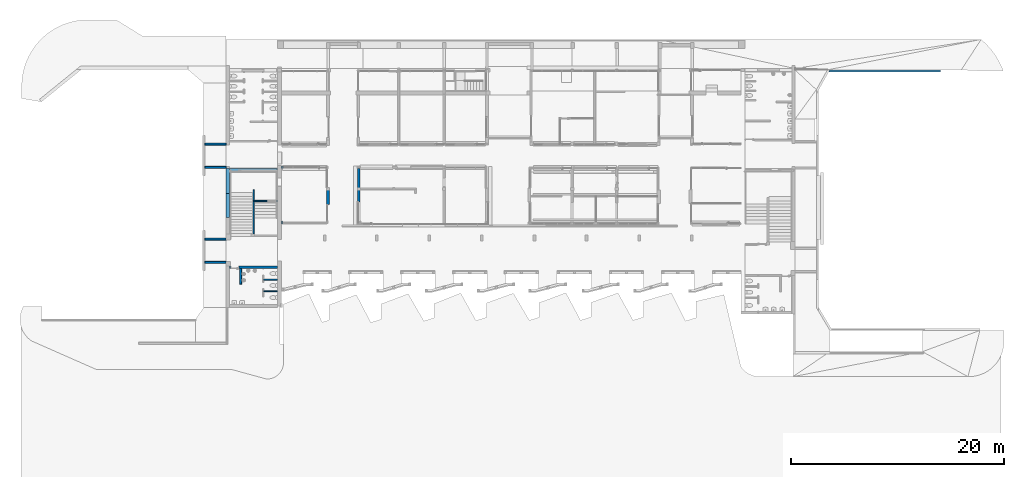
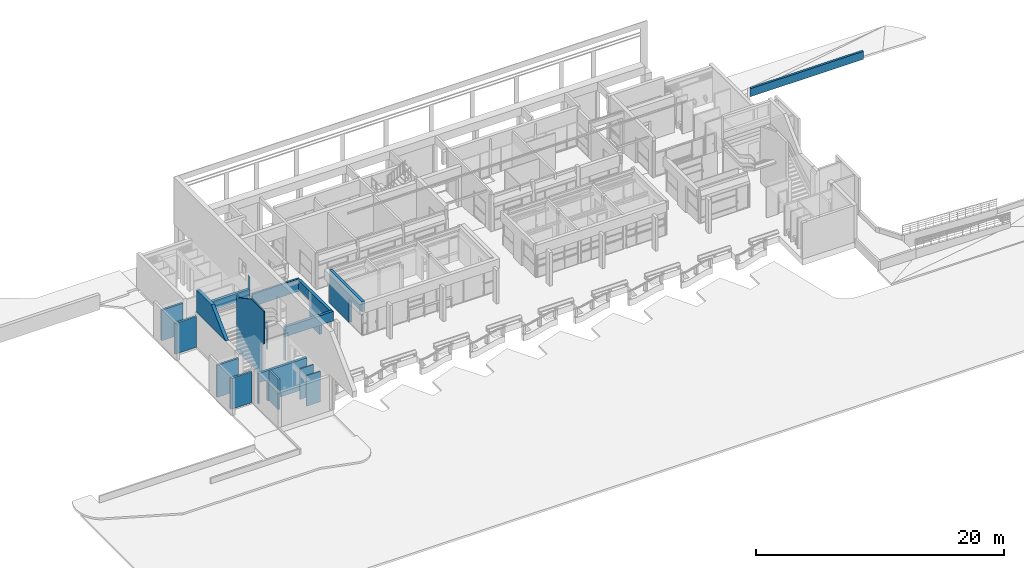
# One storey, part 71 of 117: 17 walls, 7 openings.
"""IFC4 building model written with IfcOpenShell, lengths in metres."""

from ifc_helpers import new_model, entity, si_unit, converted_unit, derived_unit, direction, frame, origin, place, context, subcontext, project, spatial, indexed_curve, outline, extrude, polygons, material, type_object, element, save


model = new_model("IFC4")

# Units and contexts
model_context = context("Model", 3, precision=1e-05, world=origin(), true_north=direction((6.123031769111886e-17, 1.0)))
body_context = subcontext(model_context, "Body", "Model", "MODEL_VIEW")
ifc_project = project(units=[si_unit("LENGTHUNIT", "METRE"), si_unit("AREAUNIT", "SQUARE_METRE"), si_unit("VOLUMEUNIT", "CUBIC_METRE"), converted_unit("PLANEANGLEUNIT", "DEGREE", entity("IfcRatioMeasure", 0.017453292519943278), si_unit("PLANEANGLEUNIT", "RADIAN"), dimensions=[0, 0, 0, 0, 0, 0, 0]), si_unit("MASSUNIT", "GRAM", prefix="KILO"), derived_unit("MASSDENSITYUNIT", [(si_unit("MASSUNIT", "GRAM", prefix="KILO"), 1), (si_unit("LENGTHUNIT", "METRE"), -3)]), derived_unit("MOMENTOFINERTIAUNIT", [(si_unit("LENGTHUNIT", "METRE"), 4)]), si_unit("TIMEUNIT", "SECOND"), si_unit("FREQUENCYUNIT", "HERTZ"), si_unit("THERMODYNAMICTEMPERATUREUNIT", "DEGREE_CELSIUS"), derived_unit("THERMALTRANSMITTANCEUNIT", [(si_unit("MASSUNIT", "GRAM", prefix="KILO"), 1), (si_unit("THERMODYNAMICTEMPERATUREUNIT", "KELVIN"), -1), (si_unit("TIMEUNIT", "SECOND"), -3)]), derived_unit("VOLUMETRICFLOWRATEUNIT", [(si_unit("LENGTHUNIT", "METRE"), 3), (si_unit("TIMEUNIT", "SECOND"), -1)]), derived_unit("MASSFLOWRATEUNIT", [(si_unit("MASSUNIT", "GRAM", prefix="KILO"), 1), (si_unit("TIMEUNIT", "SECOND"), -1)]), derived_unit("ROTATIONALFREQUENCYUNIT", [(si_unit("TIMEUNIT", "SECOND"), -1)]), si_unit("ELECTRICCURRENTUNIT", "AMPERE"), si_unit("ELECTRICVOLTAGEUNIT", "VOLT"), si_unit("POWERUNIT", "WATT"), si_unit("FORCEUNIT", "NEWTON", prefix="KILO"), si_unit("ILLUMINANCEUNIT", "LUX"), si_unit("LUMINOUSFLUXUNIT", "LUMEN"), si_unit("LUMINOUSINTENSITYUNIT", "CANDELA"), derived_unit("USERDEFINED", [(si_unit("MASSUNIT", "GRAM", prefix="KILO"), -1), (si_unit("LENGTHUNIT", "METRE"), -2), (si_unit("TIMEUNIT", "SECOND"), 3), (si_unit("LUMINOUSFLUXUNIT", "LUMEN"), 1)]), derived_unit("SOUNDPOWERUNIT", [(si_unit("MASSUNIT", "GRAM", prefix="KILO"), 1), (si_unit("LENGTHUNIT", "METRE"), 2), (si_unit("TIMEUNIT", "SECOND"), -3)]), derived_unit("SOUNDPRESSUREUNIT", [(si_unit("MASSUNIT", "GRAM", prefix="KILO"), 1), (si_unit("LENGTHUNIT", "METRE"), -1), (si_unit("TIMEUNIT", "SECOND"), -2)]), derived_unit("LINEARVELOCITYUNIT", [(si_unit("LENGTHUNIT", "METRE"), 1), (si_unit("TIMEUNIT", "SECOND"), -1)]), si_unit("PRESSUREUNIT", "PASCAL"), derived_unit("USERDEFINED", [(si_unit("LENGTHUNIT", "METRE"), -2), (si_unit("MASSUNIT", "GRAM", prefix="KILO"), 1), (si_unit("TIMEUNIT", "SECOND"), -2)]), derived_unit("LINEARFORCEUNIT", [(si_unit("MASSUNIT", "GRAM", prefix="KILO"), 1), (si_unit("LENGTHUNIT", "METRE"), 1), (si_unit("TIMEUNIT", "SECOND"), -2), (si_unit("LENGTHUNIT", "METRE"), -1)]), derived_unit("PLANARFORCEUNIT", [(si_unit("MASSUNIT", "GRAM", prefix="KILO"), 1), (si_unit("LENGTHUNIT", "METRE"), 1), (si_unit("TIMEUNIT", "SECOND"), -2), (si_unit("LENGTHUNIT", "METRE"), -2)])], contexts=[model_context])

# Site, building, storey
site_placement = place(None, origin())
site = spatial("IfcSite", under=ifc_project, at=site_placement, Name="Superficie", CompositionType="ELEMENT")
building_placement = place(site_placement, origin())
building = spatial("IfcBuilding", under=site, at=building_placement, CompositionType="ELEMENT")
storey_placement = place(building_placement, origin())
storey = spatial("IfcBuildingStorey", under=building, at=storey_placement, Name="Nivel 0", CompositionType="ELEMENT", Elevation=0.0)

# Wall
ifc_material = material(Name="Muro por defecto", Category="Varios")
wall_type_1 = type_object("IfcWallType", Name="Muro básico:Por defecto - 20 cm", PredefinedType="STANDARD")
wall_1_placement = place(storey_placement, frame((28.82958928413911, 12.636664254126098, -0.7205246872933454)))
element("IfcWall", 1, at=wall_1_placement, inside=storey, type_object=wall_type_1, material=ifc_material, Name="Muro básico:Por defecto - 20 cm", ObjectType="Muro básico:Por defecto - 20 cm", PredefinedType="NOTDEFINED", context=body_context, shape_type="SweptSolid", body=[
    extrude(outline(indexed_curve([(10.557209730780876, -0.10000000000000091), (10.557209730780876, 0.09999999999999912), (0.11086181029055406, 0.0999999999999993), (3.2996074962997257e-16, -0.10000000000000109), (10.557209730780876, -0.10000000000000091)], self_intersect=False)), origin(), (0.0, 0.0, 1.0), 0.7852033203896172),
])

# Wall, opening
wall_type_2 = type_object("IfcWallType", Name="Muro básico:Por defecto - 25 cm 2", PredefinedType="STANDARD")
wall_2_placement = place(storey_placement, frame((-15.373200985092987, -1.764170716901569, 0.0), z_axis=(0.0, 0.0, 1.0), x_axis=(0.0, 1.0, 0.0)))
wall_2 = element("IfcWall", 2, at=wall_2_placement, inside=storey, type_object=wall_type_2, material=ifc_material, Name="Muro básico:Por defecto - 25 cm 2", ObjectType="Muro básico:Por defecto - 25 cm 2", PredefinedType="NOTDEFINED", context=body_context, shape_type="Tessellation", body=[
    polygons([(5.24, -0.1250000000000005, 0.0), (5.24, -0.1250000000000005, 3.3), (5.414335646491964e-16, -0.12500000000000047, 3.3), (5.414335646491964e-16, -0.12500000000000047, 2.3), (2.090000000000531, -0.12500000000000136, 2.3), (2.090000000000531, -0.12500000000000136, 0.0), (5.24, 0.12499999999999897, 3.3), (5.24, 0.12499999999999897, 0.0), (2.090000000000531, 0.12499999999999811, 0.0), (2.090000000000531, 0.12499999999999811, 2.3), (5.414335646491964e-16, 0.124999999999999, 2.3), (5.414335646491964e-16, 0.124999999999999, 3.3)], [[[1, 2, 3, 4, 5, 6]], [[7, 8, 9, 10, 11, 12]], [[8, 1, 6, 9]], [[2, 1, 8, 7]], [[3, 2, 7, 12]], [[3, 12, 11, 4]], [[10, 5, 4, 11]], [[5, 10, 9, 6]]], closed=True),
])
opening_1_placement = place(wall_2_placement, origin())
element("IfcOpeningElement", 3, at=opening_1_placement, cuts=wall_2, Name="Muro básico:Por defecto - 25 cm 2", PredefinedType="OPENING", context=body_context, shape_type="SweptSolid", body=[
    extrude(outline(indexed_curve([(-1.2192310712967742, -1.12424335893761), (1.2192310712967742, -1.12424335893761), (1.2192310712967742, 1.12424335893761), (-1.2192310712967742, 1.12424335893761), (-1.2192310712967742, -1.12424335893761)], self_intersect=False)), frame((0.9657566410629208, -0.12500000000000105, 1.0807689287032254), z_axis=(0.0, 1.0, 0.0), x_axis=(0.0, 0.0, -1.0)), (0.0, 0.0, 1.0), 0.24999999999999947),
])

# Wall, openings
wall_3_placement = place(storey_placement, frame((-18.26820098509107, -1.4791707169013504, 0.0), z_axis=(0.0, 0.0, 1.0), x_axis=(0.0, 1.0, 0.0)))
wall_3 = element("IfcWall", 4, at=wall_3_placement, inside=storey, type_object=wall_type_2, material=ifc_material, Name="Muro básico:Por defecto - 25 cm 2", ObjectType="Muro básico:Por defecto - 25 cm 2", PredefinedType="NOTDEFINED", context=body_context, shape_type="Tessellation", body=[
    polygons([(4.954999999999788, -0.12499999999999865, 3.3), (0.0, -0.12499999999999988, 3.3), (0.0, -0.12499999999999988, 2.35), (1.556282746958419, -0.12499999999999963, 2.35), (1.556282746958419, -0.12499999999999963, 0.0), (3.1520164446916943, -0.12500000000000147, 0.0), (3.1520164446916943, -0.12500000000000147, 2.35), (4.954999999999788, -0.12499999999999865, 2.35), (0.0, 0.12500000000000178, 3.3), (4.954999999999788, 0.12500000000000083, 3.3), (4.954999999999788, 0.12500000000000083, 2.35), (3.1520164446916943, 0.12500000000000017, 2.35), (3.1520164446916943, 0.12500000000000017, 0.0), (1.556282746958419, 0.12499999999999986, 0.0), (1.556282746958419, 0.12499999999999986, 2.35), (2.707167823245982e-16, 0.12500000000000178, 2.35)], [[[1, 2, 3, 4, 5, 6, 7, 8]], [[9, 10, 11, 12, 13, 14, 15, 16]], [[13, 6, 5, 14]], [[10, 1, 8, 11]], [[2, 1, 10, 9]], [[7, 12, 11, 8]], [[12, 7, 6, 13]], [[15, 4, 3, 16]], [[4, 15, 14, 5]], [[2, 9, 16, 3]]], closed=True),
])
opening_2_placement = place(wall_3_placement, origin())
element("IfcOpeningElement", 5, at=opening_2_placement, cuts=wall_3, Name="Muro básico:Por defecto - 25 cm 2", PredefinedType="OPENING", context=body_context, shape_type="SweptSolid", body=[
    extrude(outline(indexed_curve([(-1.4698824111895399, -0.9900000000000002), (1.4698824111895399, -0.9900000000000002), (1.4698824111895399, 0.9900000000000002), (-1.4698824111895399, 0.9900000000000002), (-1.4698824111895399, -0.9900000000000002)], self_intersect=False)), frame((4.142016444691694, -0.12499999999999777, 0.88011758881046), z_axis=(0.0, 1.0, 0.0), x_axis=(0.0, 0.0, -1.0)), (0.0, 0.0, 1.0), 0.2499999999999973),
])
opening_3_placement = place(wall_3_placement, origin())
element("IfcOpeningElement", 6, at=opening_3_placement, cuts=wall_3, Name="Muro básico:Por defecto - 25 cm 2", PredefinedType="OPENING", context=body_context, shape_type="SweptSolid", body=[
    extrude(outline(indexed_curve([(-1.2052856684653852, -0.845641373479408), (1.2052856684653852, -0.845641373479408), (1.2052856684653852, 0.845641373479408), (-1.2052856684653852, 0.845641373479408), (-1.2052856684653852, -0.845641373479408)], self_intersect=False)), frame((0.7106413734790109, -0.12499999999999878, 1.1447143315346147), z_axis=(0.0, 1.0, 0.0), x_axis=(0.0, 0.0, -1.0)), (0.0, 0.0, 1.0), 0.24999999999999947),
])

# Wall, opening
wall_4_placement = place(storey_placement, frame((-22.643200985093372, -1.6041707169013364, 0.0)))
wall_4 = element("IfcWall", 7, at=wall_4_placement, inside=storey, type_object=wall_type_2, material=ifc_material, Name="Muro básico:Por defecto - 25 cm 2", ObjectType="Muro básico:Por defecto - 25 cm 2", PredefinedType="NOTDEFINED", context=body_context, shape_type="Tessellation", body=[
    polygons([(4.500000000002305, -0.12500000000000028, 3.3), (1.2347090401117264e-15, -0.125, 3.3), (1.2347090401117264e-15, -0.125, 0.0), (0.11056514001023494, -0.12499999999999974, 0.0), (0.11056514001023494, -0.12499999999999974, 2.35), (4.500000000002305, -0.12500000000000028, 2.35), (4.299623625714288e-16, 0.125, 3.3), (4.250000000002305, 0.125, 3.3), (4.500000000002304, 0.125, 3.3), (4.500000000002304, 0.125, 2.35), (4.250000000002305, 0.125, 2.35), (0.11056514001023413, 0.125, 2.35), (0.11056514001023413, 0.125, 0.0), (4.299623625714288e-16, 0.125, 0.0)], [[[1, 2, 3, 4, 5, 6]], [[7, 8, 9, 10, 11, 12, 13, 14]], [[3, 14, 13, 4]], [[2, 1, 9, 8, 7]], [[5, 12, 11, 10, 6]], [[12, 5, 4, 13]], [[9, 1, 6, 10]], [[3, 2, 7, 14]]], closed=True),
])
opening_4_placement = place(wall_4_placement, origin())
element("IfcOpeningElement", 8, at=opening_4_placement, cuts=wall_4, Name="Muro básico:Por defecto - 25 cm 2", PredefinedType="OPENING", context=body_context, shape_type="SweptSolid", body=[
    extrude(outline(indexed_curve([(-1.2116068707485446, -2.257217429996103), (1.2116068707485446, -2.257217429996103), (1.2116068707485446, 2.257217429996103), (-1.2116068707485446, 2.257217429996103), (-1.2116068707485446, -2.257217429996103)], self_intersect=False)), frame((2.367782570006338, -0.12500000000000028, 1.1383931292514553), z_axis=(0.0, 1.0, 0.0), x_axis=(0.0, 0.0, -1.0)), (0.0, 0.0, 1.0), 0.25),
])

# Walls
wall_5_placement = place(storey_placement, frame((-27.543200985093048, 3.370829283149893, 3.3033896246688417)))
element("IfcWall", 9, at=wall_5_placement, inside=storey, type_object=wall_type_2, material=ifc_material, Name="Muro básico:Por defecto - 25 cm 2", ObjectType="Muro básico:Por defecto - 25 cm 2", PredefinedType="NOTDEFINED", context=body_context, shape_type="Tessellation", body=[
    polygons([(-1.8597708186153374e-15, -0.12500000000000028, 0.0), (4.499999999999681, -0.12500000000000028, 0.0), (4.499999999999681, -0.12500000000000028, 2.126610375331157), (4.491537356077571, -0.12499999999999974, 2.126610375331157), (4.491537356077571, -0.1249999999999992, 0.8566103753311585), (0.010000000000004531, -0.12500000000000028, 0.8566103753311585), (0.010000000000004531, -0.12500000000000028, 2.126610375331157), (-1.8597708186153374e-15, -0.12500000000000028, 2.126610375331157), (4.49999999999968, 0.12500000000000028, 0.0), (-2.6702499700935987e-15, 0.12499999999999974, 0.0), (1.6612185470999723e-15, 0.12499999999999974, 0.09661037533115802), (-2.6702499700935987e-15, 0.12499999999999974, 2.126610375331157), (0.010000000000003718, 0.12499999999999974, 2.126610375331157), (0.010000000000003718, 0.12499999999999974, 0.8566103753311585), (4.491537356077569, 0.12500000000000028, 0.8566103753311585), (4.491537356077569, 0.12500000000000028, 2.126610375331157), (4.49999999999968, 0.12500000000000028, 2.126610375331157)], [[[1, 2, 3, 4, 5, 6, 7, 8]], [[9, 10, 11, 12, 13, 14, 15, 16, 17]], [[2, 1, 10, 9]], [[10, 1, 8, 12, 11]], [[2, 9, 17, 3]], [[5, 15, 14, 6]], [[6, 14, 13, 7]], [[15, 5, 4, 16]], [[8, 7, 13, 12]], [[4, 3, 17, 16]]], closed=True),
])
wall_type_3 = type_object("IfcWallType", Name="Muro básico:Por defecto - 30 cm", PredefinedType="STANDARD")
wall_6_placement = place(storey_placement, frame((-27.693200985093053, -1.1515752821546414, 3.399999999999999), z_axis=(0.0, 0.0, 1.0), x_axis=(0.0, 1.0, 0.0)))
element("IfcWall", 10, at=wall_6_placement, inside=storey, type_object=wall_type_3, material=ifc_material, Name="Muro básico:Por defecto - 30 cm", ObjectType="Muro básico:Por defecto - 30 cm", PredefinedType="NOTDEFINED", context=body_context, shape_type="Tessellation", body=[
    polygons([(4.647404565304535, -0.14999999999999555, 5.414335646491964e-16), (4.647404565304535, -0.14999999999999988, 2.03), (4.647404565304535, -0.14999999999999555, 2.199999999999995), (2.2774045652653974, -0.14999999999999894, 2.199999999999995), (2.707167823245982e-16, -0.1500000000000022, 5.414335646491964e-16), (4.6474045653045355, 0.15000000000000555, 2.199999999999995), (4.6474045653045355, 0.15000000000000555, 5.414335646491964e-16), (-1.353583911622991e-16, 0.1499999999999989, 5.414335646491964e-16), (2.2774045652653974, 0.15000000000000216, 2.199999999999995)], [[[1, 2, 3, 4, 5]], [[6, 7, 8, 9]], [[1, 5, 8, 7]], [[4, 3, 6, 9]], [[5, 4, 9, 8]], [[1, 7, 6, 3, 2]]], closed=True),
])

# Wall, opening
wall_type_4 = type_object("IfcWallType", Name="Muro básico:Por defecto - 18 cm 2", PredefinedType="STANDARD")
wall_7_placement = place(storey_placement, frame((-22.643200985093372, 3.5708292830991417, 0.0)))
wall_7 = element("IfcWall", 11, at=wall_7_placement, inside=storey, type_object=wall_type_4, material=ifc_material, Name="Muro básico:Por defecto - 18 cm 2", ObjectType="Muro básico:Por defecto - 18 cm 2", PredefinedType="NOTDEFINED", context=body_context, shape_type="Tessellation", body=[
    polygons([(4.3600000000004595, -0.09000000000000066, 3.4), (1.7557397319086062e-15, -0.09000000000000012, 3.4), (1.7557397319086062e-15, -0.09000000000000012, 0.0), (0.14470812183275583, -0.09000000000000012, 0.0), (0.14470812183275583, -0.09000000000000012, 2.1757802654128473), (4.3600000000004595, -0.09000000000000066, 2.1757802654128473), (1.1745679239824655e-15, 0.09000000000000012, 3.4), (4.360000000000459, 0.09000000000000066, 3.4), (4.360000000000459, 0.09000000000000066, 2.1757802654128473), (0.14470812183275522, 0.09000000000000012, 2.1757802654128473), (0.14470812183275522, 0.09000000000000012, 0.0), (1.1745679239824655e-15, 0.09000000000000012, 0.0)], [[[1, 2, 3, 4, 5, 6]], [[7, 8, 9, 10, 11, 12]], [[3, 12, 11, 4]], [[8, 1, 6, 9]], [[2, 1, 8, 7]], [[3, 2, 7, 12]], [[5, 10, 9, 6]], [[10, 5, 4, 11]]], closed=True),
])
opening_5_placement = place(wall_7_placement, origin())
element("IfcOpeningElement", 12, at=opening_5_placement, cuts=wall_7, Name="Muro básico:Por defecto - 18 cm 2", PredefinedType="OPENING", context=body_context, shape_type="SweptSolid", body=[
    extrude(outline(indexed_curve([(-1.1407060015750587, -2.107645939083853), (1.1407060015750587, -2.107645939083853), (1.1407060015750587, 2.107645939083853), (-1.1407060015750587, 2.107645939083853), (-1.1407060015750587, -2.107645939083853)], self_intersect=False)), frame((2.2523540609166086, -0.09000000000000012, 1.0350742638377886), z_axis=(0.0, 1.0, 0.0), x_axis=(0.0, 0.0, -1.0)), (0.0, 0.0, 1.0), 0.18000000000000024),
])

# Walls
wall_8_placement = place(storey_placement, frame((-26.483200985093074, -5.944170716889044, 0.0), z_axis=(0.0, 0.0, 1.0), x_axis=(0.0, -1.0, 0.0)))
element("IfcWall", 13, at=wall_8_placement, inside=storey, type_object=wall_type_4, material=ifc_material, Name="Muro básico:Por defecto - 18 cm 2", ObjectType="Muro básico:Por defecto - 18 cm 2", PredefinedType="NOTDEFINED", context=body_context, shape_type="Tessellation", body=[
    polygons([(0.0, -0.08999999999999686, 0.0), (1.4699999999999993, -0.08999999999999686, 0.0), (1.4699999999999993, -0.08999999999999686, 2.9999999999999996), (0.0, -0.08999999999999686, 2.9999999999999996), (0.0, 0.0900000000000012, 0.0), (0.0, 0.0900000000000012, 2.9999999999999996), (1.4699999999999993, 0.0900000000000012, 2.9999999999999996), (1.4699999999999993, 0.0900000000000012, 0.0)], [[[1, 2, 3, 4]], [[5, 6, 7, 8]], [[2, 1, 5, 8]], [[3, 2, 8, 7]], [[1, 4, 6, 5]], [[4, 3, 7, 6]]], closed=True),
])
wall_9_placement = place(storey_placement, frame((-29.843200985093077, 5.760829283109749, 0.0)))
element("IfcWall", 14, at=wall_9_placement, inside=storey, type_object=wall_type_4, material=ifc_material, Name="Muro básico:Por defecto - 18 cm 2", ObjectType="Muro básico:Por defecto - 18 cm 2", PredefinedType="NOTDEFINED", context=body_context, shape_type="Tessellation", body=[
    polygons([(-1.096389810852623e-15, -0.09000000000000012, 0.0), (2.0000000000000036, -0.09000000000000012, 0.0), (2.0000000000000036, -0.09000000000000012, 2.9999999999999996), (-1.096389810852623e-15, -0.09000000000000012, 2.9999999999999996), (-1.6811380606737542e-15, 0.09000000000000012, 0.0), (-1.6811380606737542e-15, 0.09000000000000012, 2.9999999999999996), (2.0000000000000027, 0.09000000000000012, 2.9999999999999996), (2.0000000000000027, 0.09000000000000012, 0.0)], [[[1, 2, 3, 4]], [[5, 6, 7, 8]], [[2, 1, 5, 8]], [[1, 4, 6, 5]], [[3, 2, 8, 7]], [[4, 3, 7, 6]]], closed=True),
])
wall_10_placement = place(storey_placement, frame((-29.843200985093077, 3.585829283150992, 0.0)))
element("IfcWall", 15, at=wall_10_placement, inside=storey, type_object=wall_type_4, material=ifc_material, Name="Muro básico:Por defecto - 18 cm 2", ObjectType="Muro básico:Por defecto - 18 cm 2", PredefinedType="NOTDEFINED", context=body_context, shape_type="Tessellation", body=[
    polygons([(1.6171637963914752e-15, -0.09000000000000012, 0.0), (2.0000000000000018, -0.09000000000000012, 0.0), (2.0000000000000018, -0.09000000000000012, 2.9999999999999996), (1.6171637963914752e-15, -0.09000000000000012, 2.9999999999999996), (1.0313504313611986e-15, 0.09000000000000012, 0.0), (1.0313504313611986e-15, 0.09000000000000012, 2.9999999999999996), (2.0000000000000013, 0.09000000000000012, 2.9999999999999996), (2.0000000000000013, 0.09000000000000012, 0.0)], [[[1, 2, 3, 4]], [[5, 6, 7, 8]], [[2, 1, 5, 8]], [[3, 2, 8, 7]], [[1, 4, 6, 5]], [[4, 3, 7, 6]]], closed=True),
])
wall_11_placement = place(storey_placement, frame((-29.843200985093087, -3.1796675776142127, -0.1447174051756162)))
element("IfcWall", 16, at=wall_11_placement, inside=storey, type_object=wall_type_4, material=ifc_material, Name="Muro básico:Por defecto - 18 cm 2", ObjectType="Muro básico:Por defecto - 18 cm 2", PredefinedType="NOTDEFINED", context=body_context, shape_type="Tessellation", body=[
    polygons([(1.9589095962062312e-15, -0.09000000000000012, 0.0006808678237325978), (2.0000000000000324, -0.09000000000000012, 0.0006808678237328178), (2.0000000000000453, -0.09000000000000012, 0.14471740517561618), (2.0000000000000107, -0.09000000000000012, 3.1447174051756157), (1.9589095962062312e-15, -0.09000000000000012, 3.1447174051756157), (1.3741613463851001e-15, 0.09000000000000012, 3.553157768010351e-16), (1.3741613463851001e-15, 0.09000000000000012, 3.1447174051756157), (2.00000000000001, 0.09000000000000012, 3.1447174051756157), (2.00000000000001, 0.09000000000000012, 0.0)], [[[1, 2, 3, 4, 5]], [[6, 7, 8, 9]], [[1, 5, 7, 6]], [[4, 3, 2, 9, 8]], [[5, 4, 8, 7]], [[2, 1, 6, 9]]], closed=True),
])
wall_12_placement = place(storey_placement, frame((-29.843200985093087, -5.354667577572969, -0.018156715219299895)))
element("IfcWall", 17, at=wall_12_placement, inside=storey, type_object=wall_type_4, material=ifc_material, Name="Muro básico:Por defecto - 18 cm 2", ObjectType="Muro básico:Por defecto - 18 cm 2", PredefinedType="NOTDEFINED", context=body_context, shape_type="Tessellation", body=[
    polygons([(3.93898348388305e-16, -0.09000000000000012, 0.0), (2.0000000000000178, -0.0900000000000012, 0.0), (2.0000000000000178, -0.0900000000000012, 3.0181567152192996), (3.93898348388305e-16, -0.09000000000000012, 3.0181567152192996), (-1.9191501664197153e-16, 0.09000000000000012, 0.0), (-1.9191501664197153e-16, 0.09000000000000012, 3.0181567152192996), (2.0000000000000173, 0.08999999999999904, 3.0181567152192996), (2.0000000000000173, 0.08999999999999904, 0.018156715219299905), (2.0000000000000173, 0.09000000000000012, 0.0)], [[[1, 2, 3, 4]], [[5, 6, 7, 8, 9]], [[2, 1, 5, 9]], [[1, 4, 6, 5]], [[3, 2, 9, 8, 7]], [[4, 3, 7, 6]]], closed=True),
])
wall_type_5 = type_object("IfcWallType", Name="Muro básico:Por defecto - 10 cm", PredefinedType="STANDARD")
wall_13_placement = place(storey_placement, frame((-24.32320098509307, -6.99417071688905, 0.0)))
element("IfcWall", 18, at=wall_13_placement, inside=storey, type_object=wall_type_5, material=ifc_material, Name="Muro básico:Por defecto - 10 cm", ObjectType="Muro básico:Por defecto - 10 cm", PredefinedType="NOTDEFINED", context=body_context, shape_type="Tessellation", body=[
    polygons([(2.1798477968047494e-15, -0.050000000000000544, 0.0), (1.2799999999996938, -0.050000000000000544, 0.0), (1.2799999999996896, -0.04999999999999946, 2.9999999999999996), (2.1798477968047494e-15, -0.050000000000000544, 2.9999999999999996), (1.841451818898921e-15, 0.04999999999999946, 0.0), (1.841451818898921e-15, 0.04999999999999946, 2.9999999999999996), (1.2799999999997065, 0.04999999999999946, 2.9999999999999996), (1.2799999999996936, 0.04999999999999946, 0.0)], [[[1, 2, 3, 4]], [[5, 6, 7, 8]], [[2, 1, 5, 8]], [[3, 2, 8, 7]], [[1, 4, 6, 5]], [[4, 3, 7, 6]]], closed=True),
])
wall_14_placement = place(storey_placement, frame((-24.323200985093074, -8.074170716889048, 0.0)))
element("IfcWall", 19, at=wall_14_placement, inside=storey, type_object=wall_type_5, material=ifc_material, Name="Muro básico:Por defecto - 10 cm", ObjectType="Muro básico:Por defecto - 10 cm", PredefinedType="NOTDEFINED", context=body_context, shape_type="Tessellation", body=[
    polygons([(1.5030558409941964e-15, -0.050000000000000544, 0.0), (1.2799999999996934, -0.050000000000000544, 0.0), (1.2799999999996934, -0.050000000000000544, 2.9999999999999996), (1.5030558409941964e-15, -0.050000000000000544, 2.9999999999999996), (1.1646598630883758e-15, 0.04999999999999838, 0.0), (1.1646598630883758e-15, 0.04999999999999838, 2.9999999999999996), (1.2799999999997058, 0.04999999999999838, 2.9999999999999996), (1.2799999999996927, 0.050000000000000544, 0.0)], [[[1, 2, 3, 4]], [[5, 6, 7, 8]], [[2, 1, 5, 8]], [[3, 2, 8, 7]], [[1, 4, 6, 5]], [[4, 3, 7, 6]]], closed=True),
])
wall_type_6 = type_object("IfcWallType", Name="Muro básico:Por defecto - 12 cm 2", PredefinedType="STANDARD")
wall_15_placement = place(storey_placement, frame((-25.253200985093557, 1.465829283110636, 0.0), z_axis=(0.0, 0.0, 1.0), x_axis=(0.0, -1.0, 0.0)))
element("IfcWall", 20, at=wall_15_placement, inside=storey, type_object=wall_type_6, material=ifc_material, Name="Muro básico:Por defecto - 12 cm 2", ObjectType="Muro básico:Por defecto - 12 cm 2", PredefinedType="NOTDEFINED", context=body_context, shape_type="Tessellation", body=[
    polygons([(2.707167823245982e-16, -0.059999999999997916, 0.0), (4.139999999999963, -0.05999999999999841, 0.0), (4.139999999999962, -0.05999999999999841, 3.292614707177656), (4.389999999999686, -0.059999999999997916, 3.292614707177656), (4.389999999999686, -0.059999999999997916, 6.499999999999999), (2.2699999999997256, -0.05999999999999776, 6.499999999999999), (2.2699999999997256, -0.05999999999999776, 6.45697994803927), (0.33999999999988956, -0.05999999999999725, 5.38697994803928), (0.33999999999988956, -0.05999999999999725, 5.429999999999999), (2.707167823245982e-16, -0.059999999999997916, 5.429999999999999), (2.707167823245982e-16, 0.060000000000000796, 0.0), (2.707167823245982e-16, 0.060000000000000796, 5.429999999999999), (0.3399999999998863, 0.06000000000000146, 5.429999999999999), (0.3399999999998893, 0.06000000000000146, 5.38697994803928), (2.269999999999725, 0.06000000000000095, 6.45697994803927), (2.2699999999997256, 0.06000000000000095, 6.499999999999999), (4.389999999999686, 0.060000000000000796, 6.499999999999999), (4.389999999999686, 0.060000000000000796, 3.5999999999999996), (4.389999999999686, 0.060000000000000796, 3.292614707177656), (4.139999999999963, 0.0600000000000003, 3.292614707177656), (4.139999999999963, 0.0600000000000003, 0.0), (1.1049999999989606, 0.059999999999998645, 0.0), (0.9849999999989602, 0.06000000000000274, 0.0)], [[[1, 2, 3, 4, 5, 6, 7, 8, 9, 10]], [[11, 12, 13, 14, 15, 16, 17, 18, 19, 20, 21, 22, 23]], [[2, 1, 11, 23, 22, 21]], [[1, 10, 12, 11]], [[13, 9, 8, 14]], [[6, 5, 17, 16]], [[6, 16, 15, 7]], [[8, 7, 15, 14]], [[10, 9, 13, 12]], [[19, 4, 3, 20]], [[3, 2, 21, 20]], [[5, 4, 19, 18, 17]]], closed=True),
])

# Wall, opening
wall_16_placement = place(storey_placement, frame((-25.19320098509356, 0.4208292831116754, 0.0)))
wall_16 = element("IfcWall", 21, at=wall_16_placement, inside=storey, type_object=wall_type_6, material=ifc_material, Name="Muro básico:Por defecto - 12 cm 2", ObjectType="Muro básico:Por defecto - 12 cm 2", PredefinedType="NOTDEFINED", context=body_context, shape_type="Tessellation", body=[
    polygons([(2.150000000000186, -0.05999999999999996, 2.6915789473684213), (3.161549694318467e-15, -0.05999999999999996, 2.6915789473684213), (-1.169918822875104e-15, -0.05999999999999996, 0.0), (1.2750000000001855, -0.05999999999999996, 0.0), (1.2750000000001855, -0.06000000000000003, 2.099999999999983), (2.075000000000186, -0.059999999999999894, 2.099999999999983), (2.075000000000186, -0.05999999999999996, 0.0), (2.150000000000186, -0.05999999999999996, 0.0), (2.7724730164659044e-15, 0.06000000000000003, 2.6915789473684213), (2.1500000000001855, 0.06000000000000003, 2.6915789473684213), (2.1500000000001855, 0.06000000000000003, 0.0), (2.075000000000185, 0.06000000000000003, 0.0), (2.075000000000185, 0.05999999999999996, 2.099999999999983), (1.275000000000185, 0.06000000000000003, 2.099999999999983), (1.275000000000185, 0.06000000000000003, 0.0), (2.7724730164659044e-15, 0.06000000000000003, 0.0)], [[[1, 2, 3, 4, 5, 6, 7, 8]], [[9, 10, 11, 12, 13, 14, 15, 16]], [[3, 16, 15, 4]], [[2, 1, 10, 9]], [[3, 2, 9, 16]], [[6, 13, 12, 7]], [[13, 6, 5, 14]], [[14, 5, 4, 15]], [[1, 8, 11, 10]], [[11, 8, 7, 12]]], closed=True),
])
opening_6_placement = place(wall_16_placement, frame((2.0750000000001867, 0.05999999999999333, 0.0)))
element("IfcOpeningElement", 22, at=opening_6_placement, cuts=wall_16, Name="Puerta de 1 hoja:80 x 210 cm:1", PredefinedType="OPENING", context=body_context, shape_type="SweptSolid", body=[
    extrude(outline(indexed_curve([(0.0, -7.144448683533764e-32), (2.099999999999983, -7.144448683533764e-32), (2.099999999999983, 0.8), (0.0, 0.8), (0.0, -7.144448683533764e-32)], self_intersect=False)), frame((0.0, 0.0, 0.0), z_axis=(0.0, -1.0, 0.0), x_axis=(0.0, 0.0, 1.0)), (0.0, 0.0, 1.0), 0.12),
])

wall_type_7 = type_object("IfcWallType", Name="Muro básico:Por defecto - 22 cm 2", PredefinedType="STANDARD")
wall_17_placement = place(storey_placement, frame((-23.04320098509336, -5.834170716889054, 0.0), z_axis=(0.0, 0.0, 1.0), x_axis=(-1.0, 0.0, 0.0)))
wall_17 = element("IfcWall", 23, at=wall_17_placement, inside=storey, type_object=wall_type_7, material=ifc_material, Name="Muro básico:Por defecto - 22 cm 2", ObjectType="Muro básico:Por defecto - 22 cm 2", PredefinedType="NOTDEFINED", context=body_context, shape_type="Tessellation", body=[
    polygons([(4.499999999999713, -0.1099999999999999, 0.0), (4.499999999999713, -0.1099999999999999, 2.9999999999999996), (3.750517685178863e-15, -0.1099999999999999, 2.9999999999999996), (1.6744923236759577e-14, -0.1099999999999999, 0.0), (3.60999999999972, -0.1099999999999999, 0.0), (3.60999999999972, -0.1099999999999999, 2.099999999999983), (4.409999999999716, -0.11000000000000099, 2.099999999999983), (4.409999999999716, -0.11000000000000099, 0.0), (4.499999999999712, 0.1099999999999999, 2.9999999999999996), (4.499999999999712, 0.1099999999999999, 0.0), (4.409999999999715, 0.10999999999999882, 0.0), (4.409999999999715, 0.10999999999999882, 2.099999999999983), (3.6099999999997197, 0.1099999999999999, 2.099999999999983), (3.6099999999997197, 0.1099999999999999, 0.0), (3.5299999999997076, 0.1099999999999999, 0.0), (3.3499999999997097, 0.10999999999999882, 0.0), (1.3799999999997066, 0.1099999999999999, 0.0), (1.2799999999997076, 0.10999999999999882, 0.0), (1.6056701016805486e-14, 0.1099999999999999, 0.0), (1.605670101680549e-14, 0.10999999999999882, 2.9999999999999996), (1.2799999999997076, 0.10999999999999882, 2.9999999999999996), (1.3799999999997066, 0.1099999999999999, 2.999999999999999), (3.3499999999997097, 0.10999999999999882, 2.9999999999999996), (3.5299999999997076, 0.1099999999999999, 2.9999999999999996)], [[[1, 2, 3, 4, 5, 6, 7, 8]], [[9, 10, 11, 12, 13, 14, 15, 16, 17, 18, 19, 20, 21, 22, 23, 24]], [[4, 19, 18, 17, 16, 15, 14, 5]], [[2, 1, 10, 9]], [[7, 12, 11, 8]], [[12, 7, 6, 13]], [[13, 6, 5, 14]], [[4, 3, 20, 19]], [[3, 2, 9, 24, 23, 22, 21, 20]], [[10, 1, 8, 11]]], closed=True),
])
opening_7_placement = place(wall_17_placement, frame((3.6099999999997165, -0.11000000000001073, 0.0)))
element("IfcOpeningElement", 24, at=opening_7_placement, cuts=wall_17, Name="Puerta de 1 hoja:80 x 210 cm:1", PredefinedType="OPENING", context=body_context, shape_type="SweptSolid", body=[
    extrude(outline(indexed_curve([(0.0, 0.8), (0.0, 0.0), (2.099999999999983, 0.0), (2.099999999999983, 0.8), (0.0, 0.8)], self_intersect=False)), frame((0.0, 0.0, 0.0), z_axis=(0.0, 1.0, 0.0), x_axis=(0.0, 0.0, 1.0)), (0.0, 0.0, 1.0), 0.22),
])

save(model, "model.ifc")
